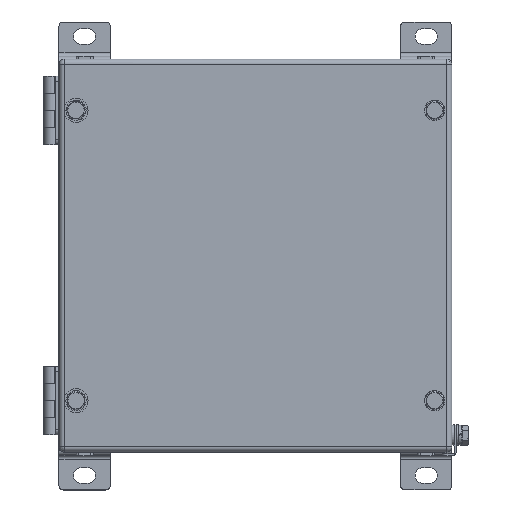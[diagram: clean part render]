
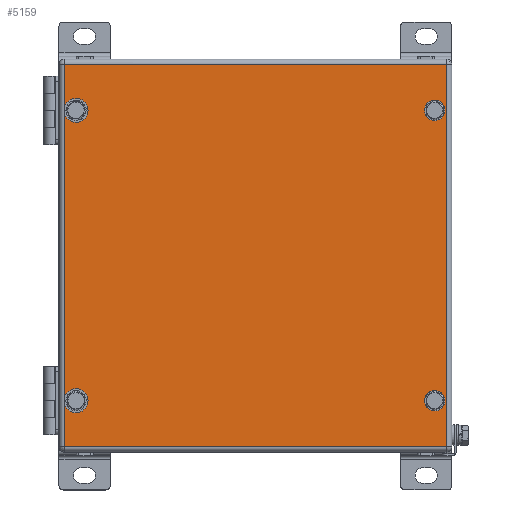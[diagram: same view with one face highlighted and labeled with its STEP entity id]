
A CAD part, top view. The second image highlights one B-rep face of the part: STEP entity #5159.
In plain terms, the highlighted planar face has unit normal (0, 0, 1).
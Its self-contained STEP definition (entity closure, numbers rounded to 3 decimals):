
#4677=CARTESIAN_POINT('',(112.0,-112.,150.0));
#4678=VERTEX_POINT('',#4677);
#4744=CARTESIAN_POINT('',(112.0,112.,150.));
#4745=VERTEX_POINT('',#4744);
#4811=CARTESIAN_POINT('',(-112.0,-112.,150.));
#4812=VERTEX_POINT('',#4811);
#4884=CARTESIAN_POINT('',(112.,-112.,150.0));
#4885=DIRECTION('',(-1.0,0.0,0.0));
#4886=VECTOR('',#4885,224.0);
#4887=LINE('',#4884,#4886);
#4888=EDGE_CURVE('',#4678,#4812,#4887,.T.);
#4900=CARTESIAN_POINT('',(-112.0,112.,150.));
#4901=VERTEX_POINT('',#4900);
#4973=CARTESIAN_POINT('',(-112.0,-112.0,150.));
#4974=DIRECTION('',(0.0,1.0,0.0));
#4975=VECTOR('',#4974,224.0);
#4976=LINE('',#4973,#4975);
#4977=EDGE_CURVE('',#4812,#4901,#4976,.T.);
#4995=CARTESIAN_POINT('',(-112.0,112.,150.));
#4996=DIRECTION('',(1.0,0.0,0.0));
#4997=VECTOR('',#4996,224.0);
#4998=LINE('',#4995,#4997);
#4999=EDGE_CURVE('',#4901,#4745,#4998,.T.);
#5017=CARTESIAN_POINT('',(112.0,112.,150.));
#5018=DIRECTION('',(0.0,-1.0,0.0));
#5019=VECTOR('',#5018,224.0);
#5020=LINE('',#5017,#5019);
#5021=EDGE_CURVE('',#4745,#4678,#5020,.T.);
#5104=CARTESIAN_POINT('',(0.,0.,150.));
#5105=DIRECTION('',(0.0,0.0,1.0));
#5106=DIRECTION('',(1.0,0.0,0.0));
#5107=AXIS2_PLACEMENT_3D('',#5104,#5105,#5106);
#5108=PLANE('',#5107);
#5109=ORIENTED_EDGE('',*,*,#4888,.F.);
#5110=ORIENTED_EDGE('',*,*,#5021,.F.);
#5111=ORIENTED_EDGE('',*,*,#4999,.F.);
#5112=ORIENTED_EDGE('',*,*,#4977,.F.);
#5113=EDGE_LOOP('',(#5109,#5110,#5111,#5112));
#5114=FACE_OUTER_BOUND('',#5113,.T.);
#5115=CARTESIAN_POINT('',(-101.25,85.,150.));
#5116=VERTEX_POINT('',#5115);
#5117=CARTESIAN_POINT('',(-105.0,85.,150.));
#5118=DIRECTION('',(0.0,0.0,-1.0));
#5119=DIRECTION('',(-1.0,0.0,0.0));
#5120=AXIS2_PLACEMENT_3D('',#5117,#5118,#5119);
#5121=CIRCLE('',#5120,3.75);
#5122=EDGE_CURVE('',#5116,#5116,#5121,.T.);
#5123=ORIENTED_EDGE('',*,*,#5122,.T.);
#5124=EDGE_LOOP('',(#5123));
#5125=FACE_BOUND('',#5124,.T.);
#5126=CARTESIAN_POINT('',(108.75,85.0,150.));
#5127=VERTEX_POINT('',#5126);
#5128=CARTESIAN_POINT('',(105.0,85.0,150.));
#5129=DIRECTION('',(0.0,0.0,-1.0));
#5130=DIRECTION('',(-1.0,0.0,0.0));
#5131=AXIS2_PLACEMENT_3D('',#5128,#5129,#5130);
#5132=CIRCLE('',#5131,3.75);
#5133=EDGE_CURVE('',#5127,#5127,#5132,.T.);
#5134=ORIENTED_EDGE('',*,*,#5133,.T.);
#5135=EDGE_LOOP('',(#5134));
#5136=FACE_BOUND('',#5135,.T.);
#5137=CARTESIAN_POINT('',(-101.25,-85.,150.));
#5138=VERTEX_POINT('',#5137);
#5139=CARTESIAN_POINT('',(-105.0,-85.,150.));
#5140=DIRECTION('',(0.0,0.0,-1.0));
#5141=DIRECTION('',(-1.0,0.0,0.0));
#5142=AXIS2_PLACEMENT_3D('',#5139,#5140,#5141);
#5143=CIRCLE('',#5142,3.75);
#5144=EDGE_CURVE('',#5138,#5138,#5143,.T.);
#5145=ORIENTED_EDGE('',*,*,#5144,.T.);
#5146=EDGE_LOOP('',(#5145));
#5147=FACE_BOUND('',#5146,.T.);
#5148=CARTESIAN_POINT('',(108.75,-85.0,150.));
#5149=VERTEX_POINT('',#5148);
#5150=CARTESIAN_POINT('',(105.0,-85.0,150.));
#5151=DIRECTION('',(0.0,0.0,-1.0));
#5152=DIRECTION('',(-1.0,0.0,0.0));
#5153=AXIS2_PLACEMENT_3D('',#5150,#5151,#5152);
#5154=CIRCLE('',#5153,3.75);
#5155=EDGE_CURVE('',#5149,#5149,#5154,.T.);
#5156=ORIENTED_EDGE('',*,*,#5155,.T.);
#5157=EDGE_LOOP('',(#5156));
#5158=FACE_BOUND('',#5157,.T.);
#5159=ADVANCED_FACE('',(#5114,#5125,#5136,#5147,#5158),#5108,.T.);
